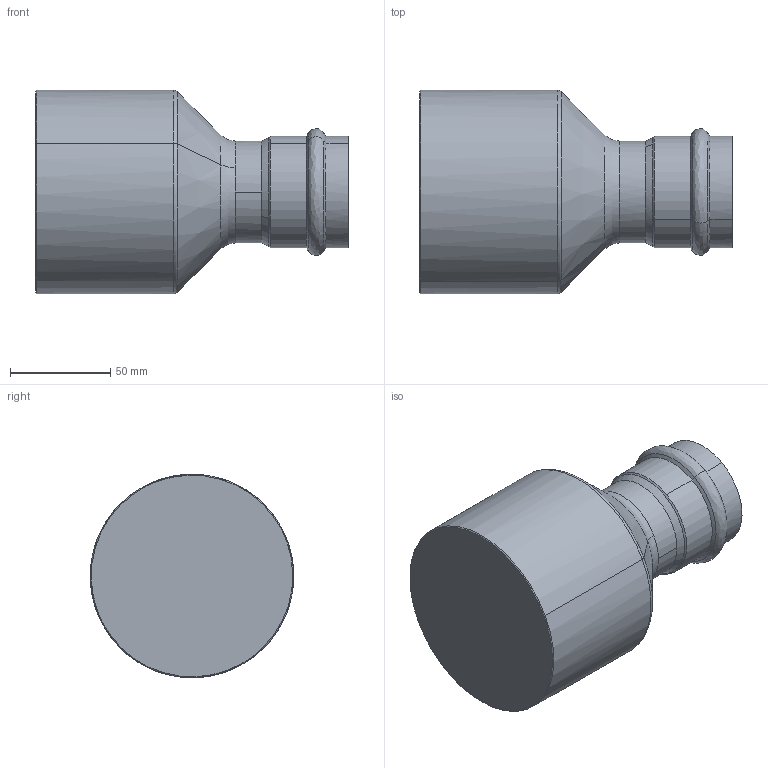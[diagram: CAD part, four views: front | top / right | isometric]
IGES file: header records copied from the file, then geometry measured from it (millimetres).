
Start section: 3D InterOp IGES (Version 25 0 1), Spatial Corp. Copyright (c) 1999-2007.
Global section: file name: pim0004357.igs; native system: Spatial Corp.; preprocessor: 3D InterOp ACIS/IGES; author: Cad-Pim; organization: TransMagic, Inc.; date: 20150430.125131; units: millimetre
Bounding box: 156 x 101.45 x 101.45 mm (x, y, z)
Volume: 751806.5 mm3; surface area: 58660.9 mm2
Topology: 1 solids, 1 shells, 31 faces, 83 edges, 55 vertices
Faces by surface type: cone 12, cylinder 10, bspline 9
